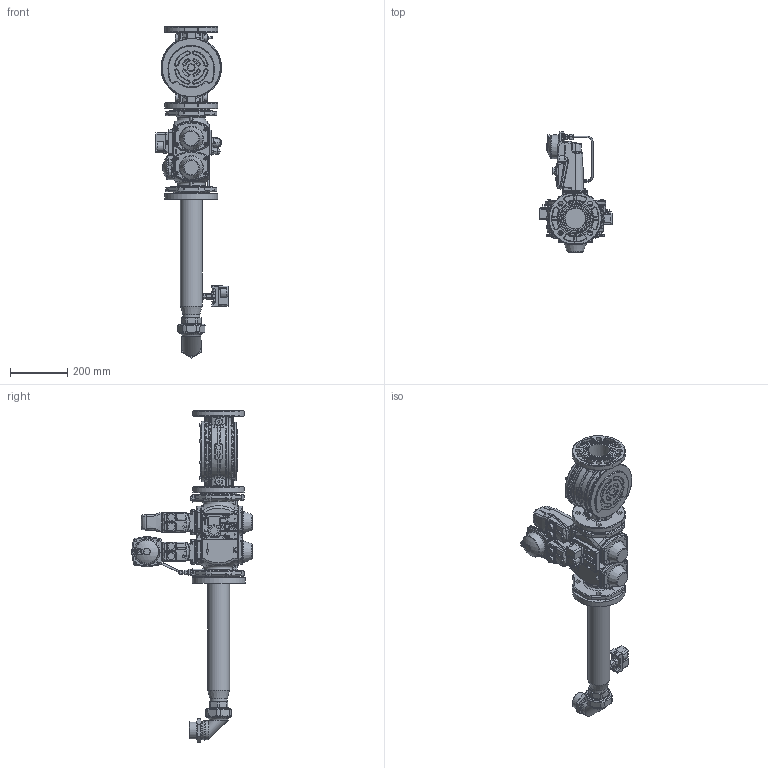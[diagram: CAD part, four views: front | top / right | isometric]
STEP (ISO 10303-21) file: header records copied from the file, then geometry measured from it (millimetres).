
FILE_DESCRIPTION (( 'STEP AP214' ), '1' );
FILE_NAME ('19990752.STEP', '2025-02-14T07:12:57', ( '' ), ( '' ), 'SwSTEP 2.0', 'SolidWorks 2021', '' );
FILE_SCHEMA (( 'AUTOMOTIVE_DESIGN' ));
Length unit declared in the file: millimetre
Products named in the file (1): 19990752
Bounding box: 251.05 x 420.8 x 1157.44 mm (x, y, z)
Surface area: 1518816.7 mm2 (no closed solid volume)
Topology: 0 solids, 91 shells, 8021 faces, 19787 edges, 12144 vertices
Faces by surface type: bspline 2650, cylinder 2278, plane 2084, torus 542, cone 335, sphere 132
Full cylindrical faces by diameter (mm): 1.5 x2, 2 x2, 3 x1, 3.1 x1, 3.838 x3, 4 x5, 4.3 x12, 4.8 x1, 5 x26, 5.188 x2, 5.3 x6, 5.5 x12, 5.795 x22, 5.9 x1, 6 x7, 6.2 x1, 6.4 x4, 6.5 x9, 7 x3, 8 x20, 8.5 x5, 9 x13, 9.5 x1, 9.728 x1, 10 x34, 10.6 x1, 11.3 x1, 11.5 x1, 11.55 x1, 11.8 x2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
Entity records: 469956 total; most frequent: CARTESIAN_POINT 221469, ORIENTED_EDGE 36621, DIRECTION 26539, EDGE_CURVE 18328, VERTEX_POINT 11699, AXIS2_PLACEMENT_3D 10377, EDGE_LOOP 9421, FACE_OUTER_BOUND 8644
